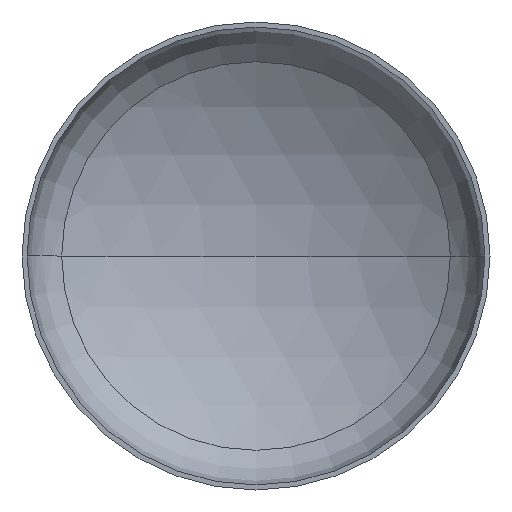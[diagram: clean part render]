
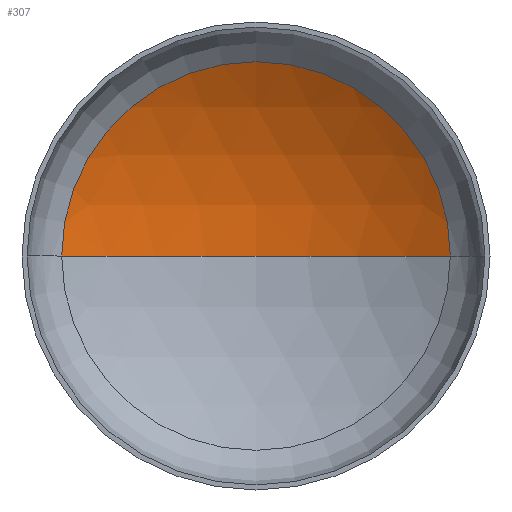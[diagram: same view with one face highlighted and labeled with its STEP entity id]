
A CAD part, front view. The second image highlights one B-rep face of the part: STEP entity #307.
In plain terms, the highlighted spherical face has radius 2080 mm.
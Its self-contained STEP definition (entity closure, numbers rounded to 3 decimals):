
#5 = EDGE_LOOP ( 'NONE', ( #332, #115, #76 ) ) ;
#76 = ORIENTED_EDGE ( 'NONE', *, *, #290, .T. ) ;
#79 = VERTEX_POINT ( 'NONE', #260 ) ;
#82 = VERTEX_POINT ( 'NONE', #242 ) ;
#99 = AXIS2_PLACEMENT_3D ( 'NONE', #194, #123, #129 ) ;
#113 = VERTEX_POINT ( 'NONE', #241 ) ;
#115 = ORIENTED_EDGE ( 'NONE', *, *, #291, .T. ) ;
#123 = DIRECTION ( 'NONE',  ( 0., 0., -1. ) ) ;
#125 = SPHERICAL_SURFACE ( 'NONE', #99, 2080. ) ;
#129 = DIRECTION ( 'NONE',  ( -1., 0., 0. ) ) ;
#139 = CIRCLE ( 'NONE', #156, 2080. ) ;
#156 = AXIS2_PLACEMENT_3D ( 'NONE', #304, #254, #252 ) ;
#160 = AXIS2_PLACEMENT_3D ( 'NONE', #289, #286, #277 ) ;
#164 = AXIS2_PLACEMENT_3D ( 'NONE', #226, #228, #233 ) ;
#194 = CARTESIAN_POINT ( 'NONE',  ( 0., -1350.972, 0. ) ) ;
#226 = CARTESIAN_POINT ( 'NONE',  ( 0., 426.898, 0. ) ) ;
#228 = DIRECTION ( 'NONE',  ( 0., -1., 0. ) ) ;
#233 = DIRECTION ( 'NONE',  ( 1., 0., 0. ) ) ;
#235 = CIRCLE ( 'NONE', #160, 2080. ) ;
#241 = CARTESIAN_POINT ( 'NONE',  ( 1079.619, 426.898, 0. ) ) ;
#242 = CARTESIAN_POINT ( 'NONE',  ( 0., 729.028, 0. ) ) ;
#252 = DIRECTION ( 'NONE',  ( 1., 0., 0. ) ) ;
#254 = DIRECTION ( 'NONE',  ( 0., 0., 1. ) ) ;
#260 = CARTESIAN_POINT ( 'NONE',  ( -1079.619, 426.898, 0. ) ) ;
#277 = DIRECTION ( 'NONE',  ( -1., 0., 0. ) ) ;
#285 = FACE_OUTER_BOUND ( 'NONE', #5, .T. ) ;
#286 = DIRECTION ( 'NONE',  ( 0., 0., -1. ) ) ;
#289 = CARTESIAN_POINT ( 'NONE',  ( 0., -1350.972, 0. ) ) ;
#290 = EDGE_CURVE ( 'NONE', #113, #79, #297, .T. ) ;
#291 = EDGE_CURVE ( 'NONE', #82, #113, #235, .T. ) ;
#296 = EDGE_CURVE ( 'NONE', #82, #79, #139, .T. ) ;
#297 = CIRCLE ( 'NONE', #164, 1079.619 ) ;
#304 = CARTESIAN_POINT ( 'NONE',  ( 0., -1350.972, 0. ) ) ;
#307 = ADVANCED_FACE ( 'NONE', ( #285 ), #125, .F. ) ;
#332 = ORIENTED_EDGE ( 'NONE', *, *, #296, .F. ) ;
